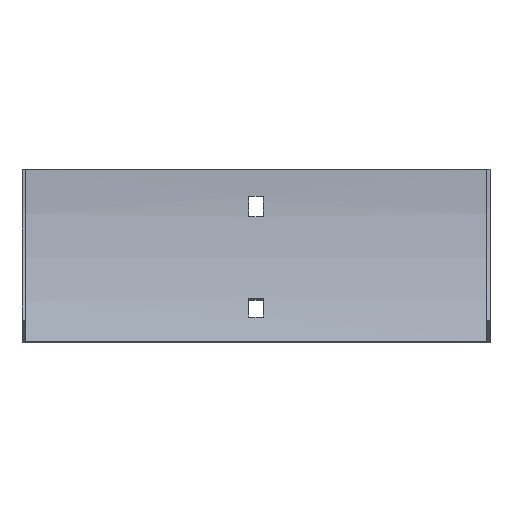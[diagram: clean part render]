
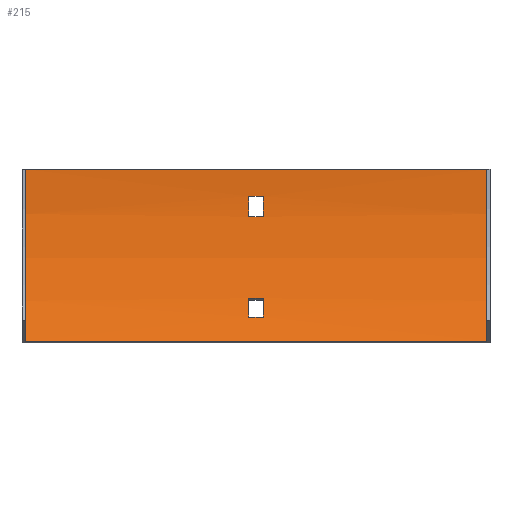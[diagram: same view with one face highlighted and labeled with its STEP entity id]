
A CAD part, front view. The second image highlights one B-rep face of the part: STEP entity #215.
In plain terms, the highlighted cylindrical face has radius 152 mm (diameter 304 mm), a partial arc.
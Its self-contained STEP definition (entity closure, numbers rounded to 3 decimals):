
#5 = ORIENTED_EDGE ( 'NONE', *, *, #260, .F. ) ;
#6 = VERTEX_POINT ( 'NONE', #284 ) ;
#8 = CARTESIAN_POINT ( 'NONE',  ( -102., -1.5, 0. ) ) ;
#10 = VERTEX_POINT ( 'NONE', #225 ) ;
#16 = CARTESIAN_POINT ( 'NONE',  ( 103.5, -16.275, -65.37 ) ) ;
#35 = LINE ( 'NONE', #451, #455 ) ;
#42 = EDGE_CURVE ( 'NONE', #520, #224, #607, .T. ) ;
#54 = DIRECTION ( 'NONE',  ( -1., 0., 0. ) ) ;
#67 = DIRECTION ( 'NONE',  ( 1., 0., 0. ) ) ;
#71 = CARTESIAN_POINT ( 'NONE',  ( -3.25, -12.626, -57.085 ) ) ;
#73 = VERTEX_POINT ( 'NONE', #230 ) ;
#74 = LINE ( 'NONE', #312, #188 ) ;
#86 = VERTEX_POINT ( 'NONE', #8 ) ;
#103 = ORIENTED_EDGE ( 'NONE', *, *, #242, .F. ) ;
#113 = AXIS2_PLACEMENT_3D ( 'NONE', #232, #273, #281 ) ;
#115 = DIRECTION ( 'NONE',  ( -1., 0., 0. ) ) ;
#122 = CARTESIAN_POINT ( 'NONE',  ( 3.25, -16.275, -65.37 ) ) ;
#126 = DIRECTION ( 'NONE',  ( -1., 0., 0. ) ) ;
#131 = EDGE_CURVE ( 'NONE', #522, #580, #35, .T. ) ;
#143 = EDGE_LOOP ( 'NONE', ( #565, #383, #484, #575 ) ) ;
#156 = VECTOR ( 'NONE', #126, 1000. ) ;
#167 = EDGE_LOOP ( 'NONE', ( #5, #365, #396, #400 ) ) ;
#169 = LINE ( 'NONE', #257, #327 ) ;
#173 = FACE_BOUND ( 'NONE', #567, .T. ) ;
#175 = DIRECTION ( 'NONE',  ( -1., 0., 0. ) ) ;
#183 = DIRECTION ( 'NONE',  ( 0., 0., 1. ) ) ;
#188 = VECTOR ( 'NONE', #175, 1000. ) ;
#215 = ADVANCED_FACE ( 'NONE', ( #173, #592, #552 ), #402, .F. ) ;
#221 = DIRECTION ( 'NONE',  ( -1., 0., 0. ) ) ;
#222 = EDGE_CURVE ( 'NONE', #391, #10, #497, .T. ) ;
#224 = VERTEX_POINT ( 'NONE', #122 ) ;
#225 = CARTESIAN_POINT ( 'NONE',  ( 3.25, -2.958, -21. ) ) ;
#226 = DIRECTION ( 'NONE',  ( 0., 0., 1. ) ) ;
#230 = CARTESIAN_POINT ( 'NONE',  ( -3.25, -16.275, -65.37 ) ) ;
#231 = AXIS2_PLACEMENT_3D ( 'NONE', #476, #54, #511 ) ;
#232 = CARTESIAN_POINT ( 'NONE',  ( 3.25, -153.5, 0. ) ) ;
#238 = VERTEX_POINT ( 'NONE', #584 ) ;
#240 = DIRECTION ( 'NONE',  ( -1., 0., 0. ) ) ;
#242 = EDGE_CURVE ( 'NONE', #6, #391, #356, .T. ) ;
#252 = VECTOR ( 'NONE', #353, 1000. ) ;
#256 = EDGE_CURVE ( 'NONE', #10, #238, #491, .T. ) ;
#257 = CARTESIAN_POINT ( 'NONE',  ( 103.5, -12.626, -57.085 ) ) ;
#260 = EDGE_CURVE ( 'NONE', #580, #86, #568, .T. ) ;
#273 = DIRECTION ( 'NONE',  ( 1., 0., 0. ) ) ;
#275 = DIRECTION ( 'NONE',  ( 1., 0., 0. ) ) ;
#281 = DIRECTION ( 'NONE',  ( 0., 0., -1. ) ) ;
#284 = CARTESIAN_POINT ( 'NONE',  ( -3.25, -1.974, -12. ) ) ;
#289 = AXIS2_PLACEMENT_3D ( 'NONE', #453, #67, #499 ) ;
#306 = DIRECTION ( 'NONE',  ( 0., 0., 1. ) ) ;
#311 = CARTESIAN_POINT ( 'NONE',  ( 103.5, -153.5, 0. ) ) ;
#312 = CARTESIAN_POINT ( 'NONE',  ( 103.5, -1.974, -12. ) ) ;
#314 = AXIS2_PLACEMENT_3D ( 'NONE', #539, #115, #306 ) ;
#316 = CARTESIAN_POINT ( 'NONE',  ( 102., -21.864, -76. ) ) ;
#318 = AXIS2_PLACEMENT_3D ( 'NONE', #590, #275, #183 ) ;
#326 = EDGE_CURVE ( 'NONE', #224, #73, #483, .T. ) ;
#327 = VECTOR ( 'NONE', #360, 1000. ) ;
#332 = CARTESIAN_POINT ( 'NONE',  ( -102., -153.5, 0. ) ) ;
#335 = ORIENTED_EDGE ( 'NONE', *, *, #222, .F. ) ;
#345 = VECTOR ( 'NONE', #240, 1000. ) ;
#353 = DIRECTION ( 'NONE',  ( 1., 0., 0. ) ) ;
#355 = AXIS2_PLACEMENT_3D ( 'NONE', #332, #464, #226 ) ;
#356 = CIRCLE ( 'NONE', #314, 152. ) ;
#358 = DIRECTION ( 'NONE',  ( -1., 0., 0. ) ) ;
#360 = DIRECTION ( 'NONE',  ( 1., 0., 0. ) ) ;
#361 = DIRECTION ( 'NONE',  ( 0., 0., 1. ) ) ;
#365 = ORIENTED_EDGE ( 'NONE', *, *, #131, .F. ) ;
#383 = ORIENTED_EDGE ( 'NONE', *, *, #487, .T. ) ;
#387 = CARTESIAN_POINT ( 'NONE',  ( -3.25, -2.958, -21. ) ) ;
#391 = VERTEX_POINT ( 'NONE', #387 ) ;
#396 = ORIENTED_EDGE ( 'NONE', *, *, #595, .T. ) ;
#398 = CARTESIAN_POINT ( 'NONE',  ( 102., -1.5, 0. ) ) ;
#400 = ORIENTED_EDGE ( 'NONE', *, *, #526, .T. ) ;
#402 = CYLINDRICAL_SURFACE ( 'NONE', #444, 152. ) ;
#410 = LINE ( 'NONE', #398, #156 ) ;
#418 = ORIENTED_EDGE ( 'NONE', *, *, #570, .F. ) ;
#444 = AXIS2_PLACEMENT_3D ( 'NONE', #311, #358, #361 ) ;
#447 = CARTESIAN_POINT ( 'NONE',  ( 3.25, -12.626, -57.085 ) ) ;
#449 = ORIENTED_EDGE ( 'NONE', *, *, #256, .F. ) ;
#451 = CARTESIAN_POINT ( 'NONE',  ( 102., -21.864, -76. ) ) ;
#453 = CARTESIAN_POINT ( 'NONE',  ( -3.25, -153.5, 0. ) ) ;
#455 = VECTOR ( 'NONE', #221, 1000. ) ;
#461 = CARTESIAN_POINT ( 'NONE',  ( 103.5, -2.958, -21. ) ) ;
#464 = DIRECTION ( 'NONE',  ( 1., 0., 0. ) ) ;
#476 = CARTESIAN_POINT ( 'NONE',  ( 3.25, -153.5, 0. ) ) ;
#483 = LINE ( 'NONE', #16, #345 ) ;
#484 = ORIENTED_EDGE ( 'NONE', *, *, #549, .T. ) ;
#487 = EDGE_CURVE ( 'NONE', #73, #537, #503, .T. ) ;
#491 = CIRCLE ( 'NONE', #113, 152. ) ;
#497 = LINE ( 'NONE', #461, #252 ) ;
#499 = DIRECTION ( 'NONE',  ( 0., 0., -1. ) ) ;
#501 = CARTESIAN_POINT ( 'NONE',  ( 102., -1.5, 0. ) ) ;
#503 = CIRCLE ( 'NONE', #289, 152. ) ;
#511 = DIRECTION ( 'NONE',  ( 0., 0., 1. ) ) ;
#513 = CIRCLE ( 'NONE', #318, 152. ) ;
#520 = VERTEX_POINT ( 'NONE', #447 ) ;
#522 = VERTEX_POINT ( 'NONE', #316 ) ;
#526 = EDGE_CURVE ( 'NONE', #527, #86, #410, .T. ) ;
#527 = VERTEX_POINT ( 'NONE', #501 ) ;
#537 = VERTEX_POINT ( 'NONE', #71 ) ;
#539 = CARTESIAN_POINT ( 'NONE',  ( -3.25, -153.5, 0. ) ) ;
#549 = EDGE_CURVE ( 'NONE', #537, #520, #169, .T. ) ;
#552 = FACE_BOUND ( 'NONE', #143, .T. ) ;
#565 = ORIENTED_EDGE ( 'NONE', *, *, #326, .T. ) ;
#567 = EDGE_LOOP ( 'NONE', ( #103, #418, #449, #335 ) ) ;
#568 = CIRCLE ( 'NONE', #355, 152. ) ;
#570 = EDGE_CURVE ( 'NONE', #238, #6, #74, .T. ) ;
#575 = ORIENTED_EDGE ( 'NONE', *, *, #42, .T. ) ;
#580 = VERTEX_POINT ( 'NONE', #587 ) ;
#584 = CARTESIAN_POINT ( 'NONE',  ( 3.25, -1.974, -12. ) ) ;
#587 = CARTESIAN_POINT ( 'NONE',  ( -102., -21.864, -76. ) ) ;
#590 = CARTESIAN_POINT ( 'NONE',  ( 102., -153.5, 0. ) ) ;
#592 = FACE_OUTER_BOUND ( 'NONE', #167, .T. ) ;
#595 = EDGE_CURVE ( 'NONE', #522, #527, #513, .T. ) ;
#607 = CIRCLE ( 'NONE', #231, 152. ) ;
